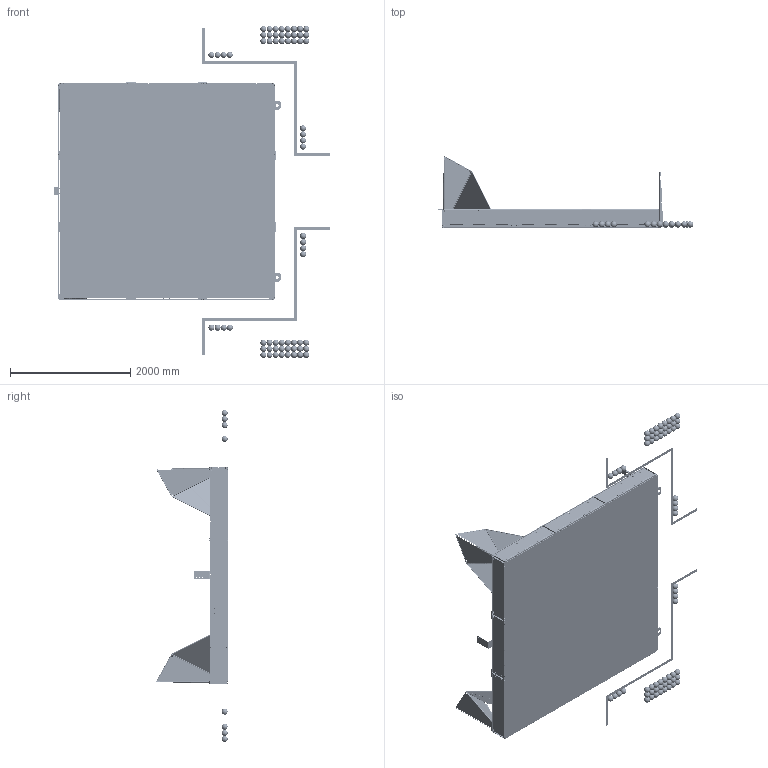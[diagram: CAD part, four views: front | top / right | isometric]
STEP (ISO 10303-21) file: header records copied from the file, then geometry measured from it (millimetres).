
FILE_DESCRIPTION (( 'STEP AP214' ), '1' );
FILE_NAME ('276-4162-STEP-20150604.STEP', '2015-06-04T17:56:04', ( '' ), ( '' ), 'SwSTEP 2.0', 'SolidWorks 2014', '' );
FILE_SCHEMA (( 'AUTOMOTIVE_DESIGN' ));
Length unit declared in the file: inch
Products named in the file (81): 25-20 Wing Nut_90866A029; 276-4162-225 Rev1; 276-4162-103 Rev3; 276-4162-111 Rev6; SBS_SBS2520-0500ZB; 276-4162-223 Rev1; 276-4162-127 Rev1; 276-4162-111_rev6 - DD; Tape-Lines; 276-4162-203 Rev1; 276-4162-107 Rev3; 276-4162-111_rev6 - CC; Foam-Surface (6x6 Grid)-VRC2015-2016; 276-4162-227 Rev1; 276-4162-122 Rev1; 276-1572-001 Rev1; 276-4162-111_rev6 - BB; 276-4604-001 Rev1; 276-4162-207 Rev1; 276-4162-102 Rev3; _Driver-Post-Assy; 276-4162-111_rev6 - AA; Empty-Field-Assy - For Field Design; 276-4162-222 Rev1; 276-4162-121 Rev1; NNYXXXX-ZZ_NNY2520-ZC; 276-4162-112 Rev12; 276-4162-202 Rev1; 276-4162-116 Rev6; SBS_SBS2520-0500SS; 276-4162-112_rev12 - C; 276-4162-STEP-20150604; 276-4162-221 Rev1; 276-4162-101 Rev3; SFP_SFP0832-0500SS-100; 276-4162-112_rev12 - B; 276-4162-201 Rev1; Ziptie; VL-FIELD-CONTROL-STAND RevB; 276-4162-112_rev12 - A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
Assembly tree (235 placements, depth 4):
  276-4162-STEP-20150604
    Empty-Field-Assy - For Field Design
    276-4604-001 Rev1  x2
    Foam-Surface (6x6 Grid)-VRC2015-2016
    Tape-Lines
    SBS_SBS2520-0500ZB  x24
    25-20 Wing Nut_90866A029  x24
    276-4162-009 Rev2  x2
    276-4162-010 Rev10  x2
    276-4162-011 Rev1  x2
    SPP10SMS-0500ZC  x4
    Ball Stack  x10
      276-4162-001 Rev4
      276-4162-002 Rev2
    Alliance-Station  x2
    Alliance-Station-Balls  x2
      276-4162-001 Rev4
    Preload-Balls  x4
      276-4162-001 Rev4
    Ziptie
    276-4162-100 Rev11_Public
      276-4162-121 Rev1
        276-4162-101 Rev3
        276-4162-116 Rev6  x2
      276-4162-122 Rev1  x2
        276-4162-102 Rev3
        276-4162-116 Rev6
      276-4162-127 Rev1
        276-4162-107 Rev3
        276-4162-116 Rev6  x2
      276-4162-123 Rev1  x2
        276-4162-103 Rev3
        276-4162-116 Rev6
      276-4162-125 Rev1
        276-4162-105 Rev3
        276-4162-116 Rev6  x2
      276-4162-126 Rev1  x2
        276-4162-106 Rev4
        276-4162-116 Rev6
      276-4162-124 Rev1
        276-4162-104 Rev3
        276-4162-116 Rev6  x2
      276-4162-128 Rev1  x2
        276-4162-108 Rev3
        276-4162-116 Rev6
        276-4162-115 Rev1
      276-4162-112 Rev12
        276-4162-112_rev12 - A
        276-4162-112_rev12 - B
        276-4162-112_rev12 - C
      276-4162-111 Rev6
        276-4162-111_rev6 - AA
        276-4162-111_rev6 - BB
        276-4162-111_rev6 - CC
        276-4162-111_rev6 - DD
      276-4162-113 Rev8
        276-4162-113_rev8 - A
        276-4162-113_rev8 - B
      276-4162-114 Rev3
        276-4162-114_rev3 - A
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Bounding box: 4610.35 x 1186.08 x 5530.35 mm (x, y, z)
Volume: 288622131.5 mm3; surface area: 54866463.1 mm2
Topology: 576 solids, 578 shells, 37180 faces, 97900 edges, 61278 vertices
Faces by surface type: plane 17130, cylinder 10962, bspline 4676, cone 2364, torus 1468, sphere 580
Entity records: 1075473 total; most frequent: CARTESIAN_POINT 268222, ORIENTED_EDGE 125970, DIRECTION 112260, EDGE_CURVE 62985, VERTEX_POINT 39610, LINE 39338, VECTOR 39338, AXIS2_PLACEMENT_3D 36461
